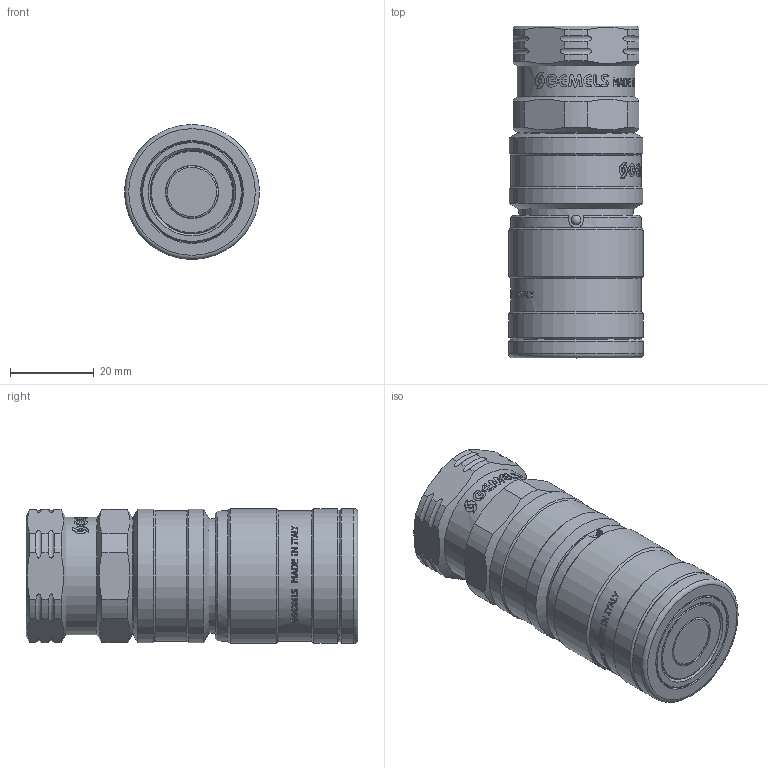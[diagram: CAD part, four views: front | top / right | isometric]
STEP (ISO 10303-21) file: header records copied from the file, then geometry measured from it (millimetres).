
FILE_DESCRIPTION(/* description */ (''),/* implementation_level */ '2;1');
FILE_NAME(/* name */ 'NC06S030000.stp',/* time_stamp */ '2024-11-22T14:51:32+01:00',/* author */ ('thomas.belotti'),/* organization */ (''),/* preprocessor_version */ 'ST-DEVELOPER v20',/* originating_system */ 'Autodesk Inventor 2024',/* authorisation */ '');
FILE_SCHEMA (('AUTOMOTIVE_DESIGN { 1 0 10303 214 3 1 1 }'));
Products named in the file (1): Parte4
Bounding box: 32.2 x 79.14 x 32.2 mm (x, y, z)
Volume: 55691.3 mm3; surface area: 11922.3 mm2
Topology: 1 solids, 1 shells, 1634 faces, 4659 edges, 3095 vertices
Faces by surface type: bspline 1059, plane 407, cylinder 127, cone 23, torus 16, sphere 2
Full cylindrical faces by diameter (mm): 2.3 x2, 12.7 x1, 17.5 x1, 18 x1, 19.8 x1, 19.9 x1, 24 x1, 24.15 x1, 27.3 x1, 27.5 x1, 28 x1, 31.1 x1, 31.2 x1, 31.8 x2, 32.2 x3
Entity records: 70890 total; most frequent: CARTESIAN_POINT 33713, ORIENTED_EDGE 9316, EDGE_CURVE 4658, DIRECTION 4117, VERTEX_POINT 3095, B_SPLINE_CURVE_WITH_KNOTS 2234, LINE 1819, VECTOR 1819
